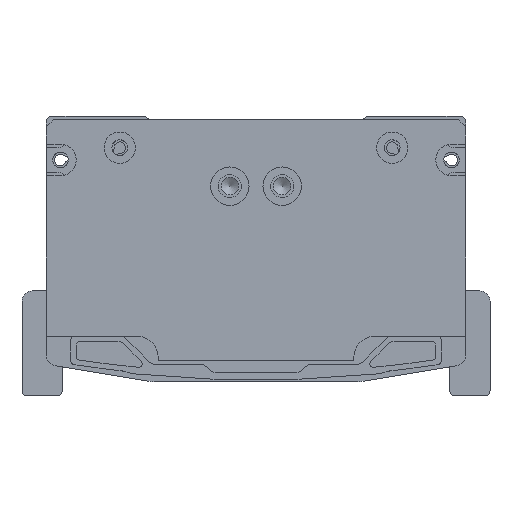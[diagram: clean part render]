
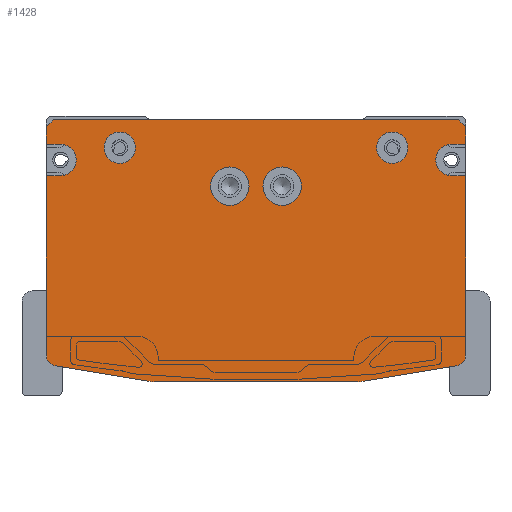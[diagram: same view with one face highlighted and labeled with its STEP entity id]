
A CAD part, front view. The second image highlights one B-rep face of the part: STEP entity #1428.
In plain terms, the highlighted planar face has unit normal (0, -1, 0).
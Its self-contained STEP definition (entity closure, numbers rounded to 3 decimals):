
#1428=ADVANCED_FACE('',(#2409,#2410,#2411,#2412,#2413),#1996,.F.);
#1996=PLANE('',#14306);
#2409=FACE_BOUND('',#3354,.T.);
#2410=FACE_BOUND('',#3355,.T.);
#2411=FACE_BOUND('',#3356,.T.);
#2412=FACE_BOUND('',#3357,.T.);
#2413=FACE_BOUND('',#3358,.T.);
#3354=EDGE_LOOP('',(#6604));
#3355=EDGE_LOOP('',(#6605));
#3356=EDGE_LOOP('',(#6606,#6607,#6608,#6609,#6610,#6611,#6612,#6613,#6614,
#6615,#6616,#6617,#6618,#6619,#6620,#6621,#6622,#6623,#6624,#6625));
#3357=EDGE_LOOP('',(#6626));
#3358=EDGE_LOOP('',(#6627));
#4310=CIRCLE('',#14207,5.5);
#4314=CIRCLE('',#14214,5.5);
#4317=CIRCLE('',#14220,4.5);
#4321=CIRCLE('',#14227,4.5);
#4328=CIRCLE('',#14245,4.5);
#4331=CIRCLE('',#14254,3.);
#4334=CIRCLE('',#14259,10.);
#4335=CIRCLE('',#14262,10.);
#4338=CIRCLE('',#14267,3.);
#4346=CIRCLE('',#14294,4.5);
#6604=ORIENTED_EDGE('',*,*,#10720,.T.);
#6605=ORIENTED_EDGE('',*,*,#10724,.T.);
#6606=ORIENTED_EDGE('',*,*,#10785,.T.);
#6607=ORIENTED_EDGE('',*,*,#10781,.F.);
#6608=ORIENTED_EDGE('',*,*,#10779,.F.);
#6609=ORIENTED_EDGE('',*,*,#10776,.F.);
#6610=ORIENTED_EDGE('',*,*,#10772,.T.);
#6611=ORIENTED_EDGE('',*,*,#10769,.T.);
#6612=ORIENTED_EDGE('',*,*,#10426,.F.);
#6613=ORIENTED_EDGE('',*,*,#10755,.T.);
#6614=ORIENTED_EDGE('',*,*,#10752,.T.);
#6615=ORIENTED_EDGE('',*,*,#10750,.F.);
#6616=ORIENTED_EDGE('',*,*,#10422,.F.);
#6617=ORIENTED_EDGE('',*,*,#10746,.T.);
#6618=ORIENTED_EDGE('',*,*,#10397,.F.);
#6619=ORIENTED_EDGE('',*,*,#10744,.T.);
#6620=ORIENTED_EDGE('',*,*,#10193,.F.);
#6621=ORIENTED_EDGE('',*,*,#10820,.T.);
#6622=ORIENTED_EDGE('',*,*,#10817,.T.);
#6623=ORIENTED_EDGE('',*,*,#10815,.F.);
#6624=ORIENTED_EDGE('',*,*,#10189,.F.);
#6625=ORIENTED_EDGE('',*,*,#10788,.T.);
#6626=ORIENTED_EDGE('',*,*,#10731,.F.);
#6627=ORIENTED_EDGE('',*,*,#10727,.F.);
#8786=VERTEX_POINT('',#20258);
#8787=VERTEX_POINT('',#20260);
#8790=VERTEX_POINT('',#20266);
#8791=VERTEX_POINT('',#20268);
#8896=VERTEX_POINT('',#20890);
#8897=VERTEX_POINT('',#20892);
#8912=VERTEX_POINT('',#20938);
#8913=VERTEX_POINT('',#20940);
#8916=VERTEX_POINT('',#20946);
#8917=VERTEX_POINT('',#20948);
#9116=VERTEX_POINT('',#22037);
#9120=VERTEX_POINT('',#22048);
#9123=VERTEX_POINT('',#22057);
#9126=VERTEX_POINT('',#22067);
#9134=VERTEX_POINT('',#22102);
#9136=VERTEX_POINT('',#22109);
#9147=VERTEX_POINT('',#22143);
#9149=VERTEX_POINT('',#22149);
#9152=VERTEX_POINT('',#22157);
#9154=VERTEX_POINT('',#22163);
#9155=VERTEX_POINT('',#22167);
#9158=VERTEX_POINT('',#22175);
#9170=VERTEX_POINT('',#22234);
#9172=VERTEX_POINT('',#22241);
#10189=EDGE_CURVE('',#8786,#8787,#11811,.T.);
#10193=EDGE_CURVE('',#8790,#8791,#11815,.T.);
#10397=EDGE_CURVE('',#8896,#8897,#11934,.T.);
#10422=EDGE_CURVE('',#8912,#8913,#11959,.T.);
#10426=EDGE_CURVE('',#8916,#8917,#11963,.T.);
#10720=EDGE_CURVE('',#9116,#9116,#4310,.T.);
#10724=EDGE_CURVE('',#9120,#9120,#4314,.T.);
#10727=EDGE_CURVE('',#9123,#9123,#4317,.T.);
#10731=EDGE_CURVE('',#9126,#9126,#4321,.T.);
#10744=EDGE_CURVE('',#8896,#8791,#12137,.T.);
#10746=EDGE_CURVE('',#8912,#8897,#12139,.T.);
#10750=EDGE_CURVE('',#8913,#9134,#12143,.T.);
#10752=EDGE_CURVE('',#9136,#9134,#4328,.T.);
#10755=EDGE_CURVE('',#8916,#9136,#12146,.T.);
#10769=EDGE_CURVE('',#9147,#8917,#4331,.T.);
#10772=EDGE_CURVE('',#9149,#9147,#12159,.T.);
#10776=EDGE_CURVE('',#9149,#9152,#4334,.T.);
#10779=EDGE_CURVE('',#9152,#9154,#12164,.T.);
#10781=EDGE_CURVE('',#9154,#9155,#4335,.T.);
#10785=EDGE_CURVE('',#9158,#9155,#12168,.T.);
#10788=EDGE_CURVE('',#8786,#9158,#4338,.T.);
#10815=EDGE_CURVE('',#8787,#9170,#12190,.T.);
#10817=EDGE_CURVE('',#9172,#9170,#4346,.T.);
#10820=EDGE_CURVE('',#8790,#9172,#12193,.T.);
#11811=LINE('',#20259,#12798);
#11815=LINE('',#20267,#12802);
#11934=LINE('',#20891,#12921);
#11959=LINE('',#20939,#12946);
#11963=LINE('',#20947,#12950);
#12137=LINE('',#22094,#13124);
#12139=LINE('',#22097,#13126);
#12143=LINE('',#22104,#13130);
#12146=LINE('',#22113,#13133);
#12159=LINE('',#22148,#13146);
#12164=LINE('',#22162,#13151);
#12168=LINE('',#22174,#13155);
#12190=LINE('',#22236,#13177);
#12193=LINE('',#22245,#13180);
#12798=VECTOR('',#15829,1.);
#12802=VECTOR('',#15833,1.);
#12921=VECTOR('',#16238,1.);
#12946=VECTOR('',#16277,1.);
#12950=VECTOR('',#16281,1.);
#13124=VECTOR('',#17041,1.);
#13126=VECTOR('',#17045,1.);
#13130=VECTOR('',#17051,1.);
#13133=VECTOR('',#17062,1.);
#13146=VECTOR('',#17095,1.);
#13151=VECTOR('',#17108,1.);
#13155=VECTOR('',#17120,1.);
#13177=VECTOR('',#17196,1.);
#13180=VECTOR('',#17207,1.);
#14207=AXIS2_PLACEMENT_3D('',#22036,#16966,#16967);
#14214=AXIS2_PLACEMENT_3D('',#22047,#16980,#16981);
#14220=AXIS2_PLACEMENT_3D('',#22056,#16992,#16993);
#14227=AXIS2_PLACEMENT_3D('',#22066,#17006,#17007);
#14245=AXIS2_PLACEMENT_3D('',#22108,#17056,#17057);
#14254=AXIS2_PLACEMENT_3D('',#22142,#17088,#17089);
#14259=AXIS2_PLACEMENT_3D('',#22156,#17102,#17103);
#14262=AXIS2_PLACEMENT_3D('',#22166,#17112,#17113);
#14267=AXIS2_PLACEMENT_3D('',#22179,#17126,#17127);
#14294=AXIS2_PLACEMENT_3D('',#22240,#17201,#17202);
#14306=AXIS2_PLACEMENT_3D('',#22262,#17232,#17233);
#15829=DIRECTION('',(0.,0.,1.));
#15833=DIRECTION('',(0.,0.,1.));
#16238=DIRECTION('',(1.,0.,0.));
#16277=DIRECTION('',(0.,0.,-1.));
#16281=DIRECTION('',(0.,0.,-1.));
#16966=DIRECTION('',(0.,1.,0.));
#16967=DIRECTION('',(1.,0.,0.));
#16980=DIRECTION('',(0.,1.,0.));
#16981=DIRECTION('',(1.,0.,0.));
#16992=DIRECTION('',(0.,-1.,0.));
#16993=DIRECTION('',(1.,0.,0.));
#17006=DIRECTION('',(0.,-1.,0.));
#17007=DIRECTION('',(1.,0.,0.));
#17041=DIRECTION('',(-0.707,0.,-0.707));
#17045=DIRECTION('',(-0.707,0.,0.707));
#17051=DIRECTION('',(-1.,0.,0.));
#17056=DIRECTION('',(0.,1.,0.));
#17057=DIRECTION('',(0.,0.,-1.));
#17062=DIRECTION('',(-1.,0.,0.));
#17088=DIRECTION('',(0.,-1.,0.));
#17089=DIRECTION('',(0.164,0.,-0.986));
#17095=DIRECTION('',(0.986,0.,0.164));
#17102=DIRECTION('',(0.,1.,0.));
#17103=DIRECTION('',(0.164,0.,-0.986));
#17108=DIRECTION('',(-1.,0.,0.));
#17112=DIRECTION('',(0.,1.,0.));
#17113=DIRECTION('',(0.,0.,-1.));
#17120=DIRECTION('',(0.986,0.,-0.164));
#17126=DIRECTION('',(0.,-1.,0.));
#17127=DIRECTION('',(-1.,0.,0.));
#17196=DIRECTION('',(1.,0.,0.));
#17201=DIRECTION('',(0.,1.,0.));
#17202=DIRECTION('',(0.,0.,1.));
#17207=DIRECTION('',(1.,0.,0.));
#17232=DIRECTION('',(0.,1.,0.));
#17233=DIRECTION('',(1.,0.,0.));
#20258=CARTESIAN_POINT('',(-60.,-212.,-69.459));
#20259=CARTESIAN_POINT('',(-60.,-212.,-69.459));
#20260=CARTESIAN_POINT('',(-60.,-212.,-18.));
#20266=CARTESIAN_POINT('',(-60.,-212.,-9.));
#20267=CARTESIAN_POINT('',(-60.,-212.,-9.));
#20268=CARTESIAN_POINT('',(-60.,-212.,-4.));
#20890=CARTESIAN_POINT('',(-58.,-212.,-2.));
#20891=CARTESIAN_POINT('',(-58.,-212.,-2.));
#20892=CARTESIAN_POINT('',(58.,-212.,-2.));
#20938=CARTESIAN_POINT('',(60.,-212.,-4.));
#20939=CARTESIAN_POINT('',(60.,-212.,-4.));
#20940=CARTESIAN_POINT('',(60.,-212.,-9.));
#20946=CARTESIAN_POINT('',(60.,-212.,-18.));
#20947=CARTESIAN_POINT('',(60.,-212.,-18.));
#20948=CARTESIAN_POINT('',(60.,-212.,-69.459));
#22036=CARTESIAN_POINT('',(7.5,-212.,-21.));
#22037=CARTESIAN_POINT('',(13.,-212.,-21.));
#22047=CARTESIAN_POINT('',(-7.5,-212.,-21.));
#22048=CARTESIAN_POINT('',(-2.,-212.,-21.));
#22056=CARTESIAN_POINT('',(-39.,-212.,-10.));
#22057=CARTESIAN_POINT('',(-34.5,-212.,-10.));
#22066=CARTESIAN_POINT('',(39.,-212.,-10.));
#22067=CARTESIAN_POINT('',(43.5,-212.,-10.));
#22094=CARTESIAN_POINT('',(-58.,-212.,-2.));
#22097=CARTESIAN_POINT('',(60.,-212.,-4.));
#22102=CARTESIAN_POINT('',(56.,-212.,-9.));
#22104=CARTESIAN_POINT('',(60.,-212.,-9.));
#22108=CARTESIAN_POINT('',(56.,-212.,-13.5));
#22109=CARTESIAN_POINT('',(56.,-212.,-18.));
#22113=CARTESIAN_POINT('',(60.,-212.,-18.));
#22142=CARTESIAN_POINT('',(57.,-212.,-69.459));
#22143=CARTESIAN_POINT('',(57.493,-212.,-72.418));
#22148=CARTESIAN_POINT('',(30.816,-212.,-76.864));
#22149=CARTESIAN_POINT('',(30.816,-212.,-76.864));
#22156=CARTESIAN_POINT('',(29.172,-212.,-67.));
#22157=CARTESIAN_POINT('',(29.172,-212.,-77.));
#22162=CARTESIAN_POINT('',(29.172,-212.,-77.));
#22163=CARTESIAN_POINT('',(-29.172,-212.,-77.));
#22166=CARTESIAN_POINT('',(-29.172,-212.,-67.));
#22167=CARTESIAN_POINT('',(-30.816,-212.,-76.864));
#22174=CARTESIAN_POINT('',(-57.493,-212.,-72.418));
#22175=CARTESIAN_POINT('',(-57.493,-212.,-72.418));
#22179=CARTESIAN_POINT('',(-57.,-212.,-69.459));
#22234=CARTESIAN_POINT('',(-56.,-212.,-18.));
#22236=CARTESIAN_POINT('',(-60.,-212.,-18.));
#22240=CARTESIAN_POINT('',(-56.,-212.,-13.5));
#22241=CARTESIAN_POINT('',(-56.,-212.,-9.));
#22245=CARTESIAN_POINT('',(-60.,-212.,-9.));
#22262=CARTESIAN_POINT('',(0.,-212.,-2.));
